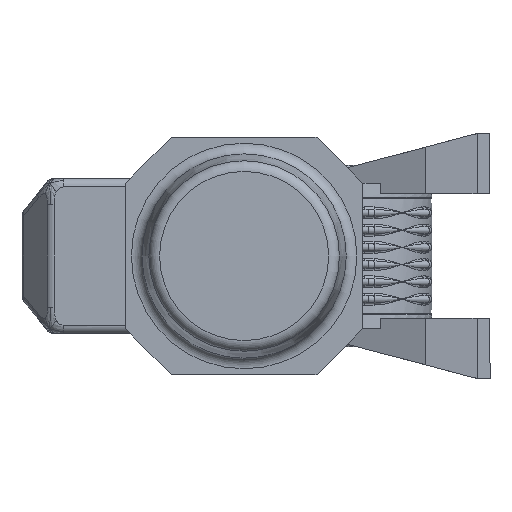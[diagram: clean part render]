
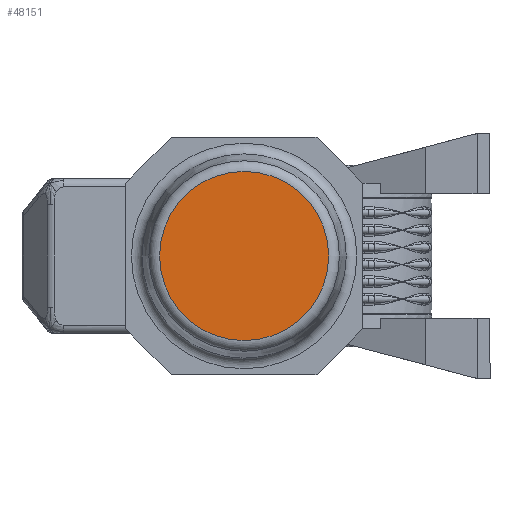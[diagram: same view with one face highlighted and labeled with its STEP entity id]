
A CAD part, left-side view. The second image highlights one B-rep face of the part: STEP entity #48151.
In plain terms, the highlighted planar face has unit normal (-1, 0, 0) as drawn and (1, 0, 0) by its records, which use the part's own axes.
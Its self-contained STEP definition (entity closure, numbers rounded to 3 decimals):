
#48128=CARTESIAN_POINT('',(197.,0.0,39.216));
#48129=VERTEX_POINT('',#48128);
#48130=CARTESIAN_POINT('',(197.,0.0,0.0));
#48131=DIRECTION('',(-1.0,0.0,0.0));
#48132=DIRECTION('',(0.0,0.0,-1.0));
#48133=AXIS2_PLACEMENT_3D('',#48130,#48131,#48132);
#48134=CIRCLE('',#48133,39.216);
#48135=EDGE_CURVE('',#48129,#48129,#48134,.T.);
#48143=CARTESIAN_POINT('',(197.,0.0,21.75));
#48144=DIRECTION('',(1.0,0.0,0.0));
#48145=DIRECTION('',(0.0,0.0,-1.0));
#48146=AXIS2_PLACEMENT_3D('',#48143,#48144,#48145);
#48147=PLANE('',#48146);
#48148=ORIENTED_EDGE('',*,*,#48135,.F.);
#48149=EDGE_LOOP('',(#48148));
#48150=FACE_OUTER_BOUND('',#48149,.T.);
#48151=ADVANCED_FACE('',(#48150),#48147,.T.);
